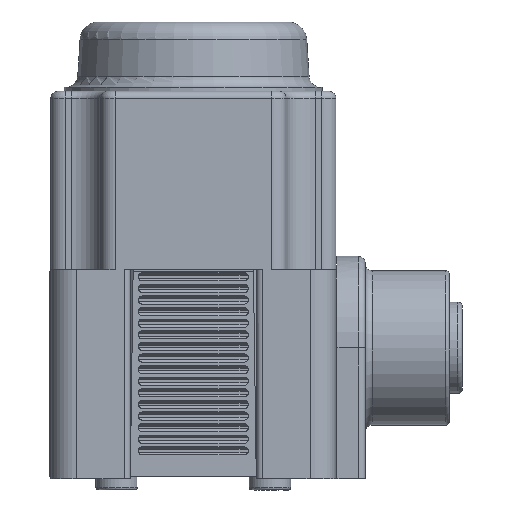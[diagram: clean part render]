
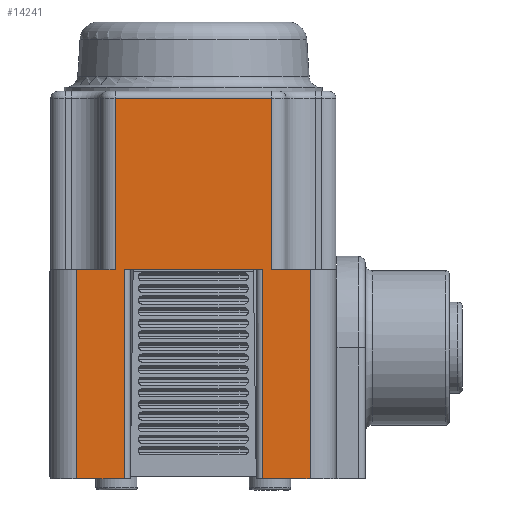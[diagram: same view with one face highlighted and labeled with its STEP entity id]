
A CAD part, left-side view. The second image highlights one B-rep face of the part: STEP entity #14241.
In plain terms, the highlighted planar face has unit normal (-1, 0, 0).
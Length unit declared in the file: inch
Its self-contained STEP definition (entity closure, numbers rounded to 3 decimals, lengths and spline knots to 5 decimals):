
#838=PLANE('',#15799);
#1587=FACE_OUTER_BOUND('',#2452,.T.);
#2452=EDGE_LOOP('',(#12280,#12281,#12282,#12283,#12284,#12285,#12286,#12287,
#12288,#12289,#12290,#12291));
#4053=LINE('',#25679,#5028);
#4066=LINE('',#25749,#5041);
#4182=LINE('',#27322,#5157);
#4199=LINE('',#27381,#5174);
#4200=LINE('',#27385,#5175);
#4203=LINE('',#27404,#5178);
#4216=LINE('',#27480,#5191);
#4217=LINE('',#27484,#5192);
#4218=LINE('',#27485,#5193);
#4219=LINE('',#27487,#5194);
#4220=LINE('',#27489,#5195);
#4221=LINE('',#27490,#5196);
#5028=VECTOR('',#19235,0.3937);
#5041=VECTOR('',#19318,0.3937);
#5157=VECTOR('',#19628,0.3937);
#5174=VECTOR('',#19699,0.3937);
#5175=VECTOR('',#19704,0.3937);
#5178=VECTOR('',#19725,0.3937);
#5191=VECTOR('',#19826,0.3937);
#5192=VECTOR('',#19831,0.3937);
#5193=VECTOR('',#19832,0.3937);
#5194=VECTOR('',#19833,0.3937);
#5195=VECTOR('',#19834,0.3937);
#5196=VECTOR('',#19835,0.3937);
#6301=VERTEX_POINT('',#25671);
#6303=VERTEX_POINT('',#25677);
#6325=VERTEX_POINT('',#25747);
#6455=VERTEX_POINT('',#27319);
#6456=VERTEX_POINT('',#27321);
#6471=VERTEX_POINT('',#27380);
#6472=VERTEX_POINT('',#27384);
#6479=VERTEX_POINT('',#27402);
#6498=VERTEX_POINT('',#27479);
#6499=VERTEX_POINT('',#27483);
#6500=VERTEX_POINT('',#27486);
#6501=VERTEX_POINT('',#27488);
#8144=EDGE_CURVE('',#6303,#6301,#4053,.T.);
#8180=EDGE_CURVE('',#6325,#6303,#4066,.T.);
#8382=EDGE_CURVE('',#6456,#6455,#4182,.T.);
#8411=EDGE_CURVE('',#6471,#6301,#4199,.T.);
#8413=EDGE_CURVE('',#6472,#6471,#4200,.T.);
#8423=EDGE_CURVE('',#6325,#6479,#4203,.T.);
#8461=EDGE_CURVE('',#6498,#6456,#4216,.T.);
#8463=EDGE_CURVE('',#6499,#6479,#4217,.T.);
#8464=EDGE_CURVE('',#6498,#6499,#4218,.T.);
#8465=EDGE_CURVE('',#6500,#6455,#4219,.T.);
#8466=EDGE_CURVE('',#6500,#6501,#4220,.T.);
#8467=EDGE_CURVE('',#6501,#6472,#4221,.T.);
#12280=ORIENTED_EDGE('',*,*,#8144,.F.);
#12281=ORIENTED_EDGE('',*,*,#8180,.F.);
#12282=ORIENTED_EDGE('',*,*,#8423,.T.);
#12283=ORIENTED_EDGE('',*,*,#8463,.F.);
#12284=ORIENTED_EDGE('',*,*,#8464,.F.);
#12285=ORIENTED_EDGE('',*,*,#8461,.T.);
#12286=ORIENTED_EDGE('',*,*,#8382,.T.);
#12287=ORIENTED_EDGE('',*,*,#8465,.F.);
#12288=ORIENTED_EDGE('',*,*,#8466,.T.);
#12289=ORIENTED_EDGE('',*,*,#8467,.T.);
#12290=ORIENTED_EDGE('',*,*,#8413,.T.);
#12291=ORIENTED_EDGE('',*,*,#8411,.T.);
#14241=ADVANCED_FACE('',(#1587),#838,.T.);
#15799=AXIS2_PLACEMENT_3D('',#27482,#19829,#19830);
#19235=DIRECTION('',(0.,-1.,0.));
#19318=DIRECTION('',(0.,0.,1.));
#19628=DIRECTION('',(0.,-1.,0.));
#19699=DIRECTION('',(0.,0.,1.));
#19704=DIRECTION('',(0.,1.,0.));
#19725=DIRECTION('',(0.,1.,0.));
#19826=DIRECTION('',(0.,0.,1.));
#19829=DIRECTION('center_axis',(-1.,0.,0.));
#19830=DIRECTION('ref_axis',(0.,0.,1.));
#19831=DIRECTION('',(0.,0.,1.));
#19832=DIRECTION('',(0.,1.,0.));
#19833=DIRECTION('',(0.,0.,1.));
#19834=DIRECTION('',(0.,-1.,0.));
#19835=DIRECTION('',(0.,0.,1.));
#25671=CARTESIAN_POINT('',(-0.6621,-0.47849,0.6733));
#25677=CARTESIAN_POINT('',(-0.6621,0.18951,0.6733));
#25679=CARTESIAN_POINT('',(-0.6621,0.18951,0.6733));
#25747=CARTESIAN_POINT('',(-0.6621,0.18951,-0.0587));
#25749=CARTESIAN_POINT('',(-0.6621,0.18951,-0.0587));
#27319=CARTESIAN_POINT('',(-0.6621,-0.43849,-0.0587));
#27321=CARTESIAN_POINT('',(-0.6621,0.14951,-0.0587));
#27322=CARTESIAN_POINT('',(-0.6621,0.14951,-0.0587));
#27380=CARTESIAN_POINT('',(-0.6621,-0.47849,-0.0587));
#27381=CARTESIAN_POINT('',(-0.6621,-0.47849,-0.0587));
#27384=CARTESIAN_POINT('',(-0.6621,-0.64349,-0.0587));
#27385=CARTESIAN_POINT('',(-0.6621,-0.64349,-0.0587));
#27402=CARTESIAN_POINT('',(-0.6621,0.35451,-0.0587));
#27404=CARTESIAN_POINT('',(-0.6621,0.18951,-0.0587));
#27479=CARTESIAN_POINT('',(-0.6621,0.14951,-0.9527));
#27480=CARTESIAN_POINT('',(-0.6621,0.14951,-0.9527));
#27482=CARTESIAN_POINT('Origin',(-0.6621,-0.64388,
-0.1397));
#27483=CARTESIAN_POINT('',(-0.6621,0.35451,-0.9527));
#27484=CARTESIAN_POINT('',(-0.6621,0.35451,-0.9527));
#27485=CARTESIAN_POINT('',(-0.6621,0.14951,-0.9527));
#27486=CARTESIAN_POINT('',(-0.6621,-0.43849,-0.9527));
#27487=CARTESIAN_POINT('',(-0.6621,-0.43849,-0.9527));
#27488=CARTESIAN_POINT('',(-0.6621,-0.64349,-0.9527));
#27489=CARTESIAN_POINT('',(-0.6621,-0.43849,-0.9527));
#27490=CARTESIAN_POINT('',(-0.6621,-0.64349,-0.9527));
